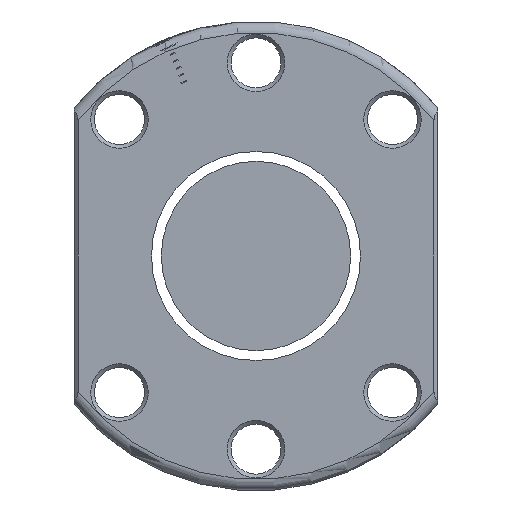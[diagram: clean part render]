
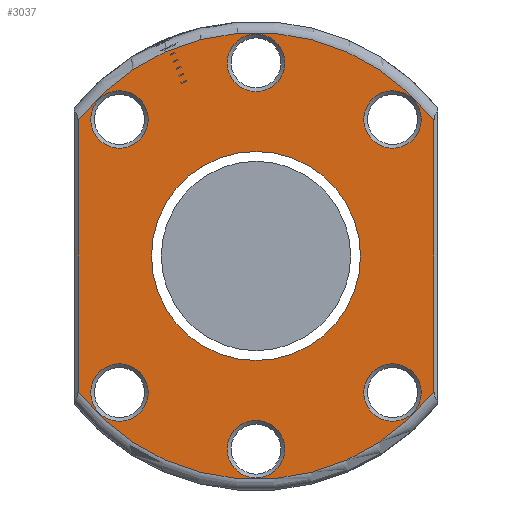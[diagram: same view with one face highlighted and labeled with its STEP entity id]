
A CAD part, left-side view. The second image highlights one B-rep face of the part: STEP entity #3037.
In plain terms, the highlighted planar face has unit normal (-1, 0, 0).
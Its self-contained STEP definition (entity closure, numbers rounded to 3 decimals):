
#37 = VERTEX_POINT ( 'NONE', #1916 ) ;
#38 = CIRCLE ( 'NONE', #2377, 3.8 ) ;
#60 = DIRECTION ( 'NONE',  ( 0., 0., 1. ) ) ;
#74 = DIRECTION ( 'NONE',  ( 0., 0., 1. ) ) ;
#81 = AXIS2_PLACEMENT_3D ( 'NONE', #705, #249, #1450 ) ;
#119 = DIRECTION ( 'NONE',  ( -1., 0., 0. ) ) ;
#148 = FACE_BOUND ( 'NONE', #1186, .T. ) ;
#188 = CIRCLE ( 'NONE', #1670, 3.8 ) ;
#189 = AXIS2_PLACEMENT_3D ( 'NONE', #1066, #1559, #2047 ) ;
#209 = CARTESIAN_POINT ( 'NONE',  ( -63., -18.031, -14.231 ) ) ;
#224 = EDGE_CURVE ( 'NONE', #2580, #622, #2358, .T. ) ;
#249 = DIRECTION ( 'NONE',  ( 1., 0., 0. ) ) ;
#288 = VERTEX_POINT ( 'NONE', #1264 ) ;
#338 = CIRCLE ( 'NONE', #2477, 3.8 ) ;
#345 = DIRECTION ( 'NONE',  ( 0., 0., 1. ) ) ;
#359 = CARTESIAN_POINT ( 'NONE',  ( -63., 0., 25.5 ) ) ;
#361 = DIRECTION ( 'NONE',  ( 1., 0., 0. ) ) ;
#391 = FACE_BOUND ( 'NONE', #1097, .T. ) ;
#407 = CARTESIAN_POINT ( 'NONE',  ( -63., 31., 0. ) ) ;
#414 = EDGE_LOOP ( 'NONE', ( #1433 ) ) ;
#421 = EDGE_CURVE ( 'NONE', #622, #2193, #2172, .T. ) ;
#430 = ORIENTED_EDGE ( 'NONE', *, *, #224, .T. ) ;
#449 = CIRCLE ( 'NONE', #1059, 3.8 ) ;
#503 = VERTEX_POINT ( 'NONE', #209 ) ;
#571 = DIRECTION ( 'NONE',  ( 0., 0., 1. ) ) ;
#595 = VECTOR ( 'NONE', #1879, 1000. ) ;
#618 = DIRECTION ( 'NONE',  ( 1., 0., 0. ) ) ;
#622 = VERTEX_POINT ( 'NONE', #1423 ) ;
#664 = EDGE_LOOP ( 'NONE', ( #729 ) ) ;
#705 = CARTESIAN_POINT ( 'NONE',  ( -63., 0., 0. ) ) ;
#729 = ORIENTED_EDGE ( 'NONE', *, *, #1342, .T. ) ;
#907 = AXIS2_PLACEMENT_3D ( 'NONE', #1576, #2753, #571 ) ;
#970 = EDGE_CURVE ( 'NONE', #2935, #2935, #1459, .T. ) ;
#1059 = AXIS2_PLACEMENT_3D ( 'NONE', #2544, #361, #345 ) ;
#1066 = CARTESIAN_POINT ( 'NONE',  ( -63., 18.031, 18.031 ) ) ;
#1095 = DIRECTION ( 'NONE',  ( 0., 0., 1. ) ) ;
#1097 = EDGE_LOOP ( 'NONE', ( #1139 ) ) ;
#1124 = FACE_OUTER_BOUND ( 'NONE', #2751, .T. ) ;
#1139 = ORIENTED_EDGE ( 'NONE', *, *, #2689, .T. ) ;
#1186 = EDGE_LOOP ( 'NONE', ( #1846 ) ) ;
#1234 = ORIENTED_EDGE ( 'NONE', *, *, #421, .T. ) ;
#1264 = CARTESIAN_POINT ( 'NONE',  ( -63., 18.031, 21.831 ) ) ;
#1290 = AXIS2_PLACEMENT_3D ( 'NONE', #407, #1380, #2348 ) ;
#1333 = DIRECTION ( 'NONE',  ( 0., 0., 1. ) ) ;
#1342 = EDGE_CURVE ( 'NONE', #503, #503, #188, .T. ) ;
#1366 = FACE_BOUND ( 'NONE', #664, .T. ) ;
#1380 = DIRECTION ( 'NONE',  ( -1., 0., 0. ) ) ;
#1390 = CARTESIAN_POINT ( 'NONE',  ( -63., 23.5, -19.621 ) ) ;
#1402 = EDGE_CURVE ( 'NONE', #2193, #2246, #2529, .T. ) ;
#1418 = AXIS2_PLACEMENT_3D ( 'NONE', #2783, #119, #1095 ) ;
#1423 = CARTESIAN_POINT ( 'NONE',  ( -63., 23.5, -17.833 ) ) ;
#1433 = ORIENTED_EDGE ( 'NONE', *, *, #1717, .T. ) ;
#1439 = DIRECTION ( 'NONE',  ( 0., 0., 1. ) ) ;
#1447 = ORIENTED_EDGE ( 'NONE', *, *, #2793, .T. ) ;
#1450 = DIRECTION ( 'NONE',  ( 0., 0., -1. ) ) ;
#1459 = CIRCLE ( 'NONE', #81, 13.8 ) ;
#1517 = AXIS2_PLACEMENT_3D ( 'NONE', #2896, #2188, #1439 ) ;
#1559 = DIRECTION ( 'NONE',  ( 1., 0., 0. ) ) ;
#1576 = CARTESIAN_POINT ( 'NONE',  ( -63., 0., -25.5 ) ) ;
#1606 = EDGE_LOOP ( 'NONE', ( #3091 ) ) ;
#1670 = AXIS2_PLACEMENT_3D ( 'NONE', #2019, #2249, #60 ) ;
#1674 = CIRCLE ( 'NONE', #189, 3.8 ) ;
#1717 = EDGE_CURVE ( 'NONE', #37, #37, #338, .T. ) ;
#1743 = EDGE_LOOP ( 'NONE', ( #2557 ) ) ;
#1753 = VERTEX_POINT ( 'NONE', #2716 ) ;
#1802 = EDGE_CURVE ( 'NONE', #2886, #2886, #38, .T. ) ;
#1804 = CARTESIAN_POINT ( 'NONE',  ( -63., -18.031, 21.831 ) ) ;
#1822 = DIRECTION ( 'NONE',  ( 1., 0., 0. ) ) ;
#1846 = ORIENTED_EDGE ( 'NONE', *, *, #1802, .T. ) ;
#1869 = FACE_BOUND ( 'NONE', #1743, .T. ) ;
#1879 = DIRECTION ( 'NONE',  ( 0., 0., -1. ) ) ;
#1916 = CARTESIAN_POINT ( 'NONE',  ( -63., 18.031, -14.231 ) ) ;
#2019 = CARTESIAN_POINT ( 'NONE',  ( -63., -18.031, -18.031 ) ) ;
#2045 = ORIENTED_EDGE ( 'NONE', *, *, #1402, .T. ) ;
#2047 = DIRECTION ( 'NONE',  ( 0., 0., 1. ) ) ;
#2119 = FACE_BOUND ( 'NONE', #414, .T. ) ;
#2121 = DIRECTION ( 'NONE',  ( 0., 0., 1. ) ) ;
#2172 = CIRCLE ( 'NONE', #1517, 29.5 ) ;
#2188 = DIRECTION ( 'NONE',  ( -1., 0., 0. ) ) ;
#2193 = VERTEX_POINT ( 'NONE', #2602 ) ;
#2212 = EDGE_LOOP ( 'NONE', ( #2706 ) ) ;
#2246 = VERTEX_POINT ( 'NONE', #2553 ) ;
#2249 = DIRECTION ( 'NONE',  ( 1., 0., 0. ) ) ;
#2335 = FACE_BOUND ( 'NONE', #1606, .T. ) ;
#2348 = DIRECTION ( 'NONE',  ( 0., 0., 1. ) ) ;
#2358 = LINE ( 'NONE', #1390, #595 ) ;
#2377 = AXIS2_PLACEMENT_3D ( 'NONE', #359, #618, #1333 ) ;
#2423 = CARTESIAN_POINT ( 'NONE',  ( -63., 0., -13.8 ) ) ;
#2426 = CIRCLE ( 'NONE', #907, 3.8 ) ;
#2448 = CARTESIAN_POINT ( 'NONE',  ( -63., 23.5, 17.833 ) ) ;
#2465 = CARTESIAN_POINT ( 'NONE',  ( -63., -23.5, 19.621 ) ) ;
#2477 = AXIS2_PLACEMENT_3D ( 'NONE', #2782, #1822, #2121 ) ;
#2529 = LINE ( 'NONE', #2465, #2582 ) ;
#2544 = CARTESIAN_POINT ( 'NONE',  ( -63., -18.031, 18.031 ) ) ;
#2553 = CARTESIAN_POINT ( 'NONE',  ( -63., -23.5, 17.833 ) ) ;
#2557 = ORIENTED_EDGE ( 'NONE', *, *, #970, .T. ) ;
#2573 = FACE_BOUND ( 'NONE', #2212, .T. ) ;
#2580 = VERTEX_POINT ( 'NONE', #2448 ) ;
#2582 = VECTOR ( 'NONE', #74, 1000. ) ;
#2602 = CARTESIAN_POINT ( 'NONE',  ( -63., -23.5, -17.833 ) ) ;
#2689 = EDGE_CURVE ( 'NONE', #1753, #1753, #2426, .T. ) ;
#2706 = ORIENTED_EDGE ( 'NONE', *, *, #2708, .T. ) ;
#2708 = EDGE_CURVE ( 'NONE', #288, #288, #1674, .T. ) ;
#2716 = CARTESIAN_POINT ( 'NONE',  ( -63., 0., -21.7 ) ) ;
#2741 = EDGE_CURVE ( 'NONE', #3055, #3055, #449, .T. ) ;
#2751 = EDGE_LOOP ( 'NONE', ( #2045, #1447, #430, #1234 ) ) ;
#2753 = DIRECTION ( 'NONE',  ( 1., 0., 0. ) ) ;
#2782 = CARTESIAN_POINT ( 'NONE',  ( -63., 18.031, -18.031 ) ) ;
#2783 = CARTESIAN_POINT ( 'NONE',  ( -63., 0., 0. ) ) ;
#2793 = EDGE_CURVE ( 'NONE', #2246, #2580, #2939, .T. ) ;
#2826 = PLANE ( 'NONE',  #1290 ) ;
#2871 = CARTESIAN_POINT ( 'NONE',  ( -63., 0., 29.3 ) ) ;
#2886 = VERTEX_POINT ( 'NONE', #2871 ) ;
#2896 = CARTESIAN_POINT ( 'NONE',  ( -63., 0., 0. ) ) ;
#2935 = VERTEX_POINT ( 'NONE', #2423 ) ;
#2939 = CIRCLE ( 'NONE', #1418, 29.5 ) ;
#3037 = ADVANCED_FACE ( 'NONE', ( #2573, #2119, #391, #1366, #2335, #148, #1124, #1869 ), #2826, .T. ) ;
#3055 = VERTEX_POINT ( 'NONE', #1804 ) ;
#3091 = ORIENTED_EDGE ( 'NONE', *, *, #2741, .T. ) ;
